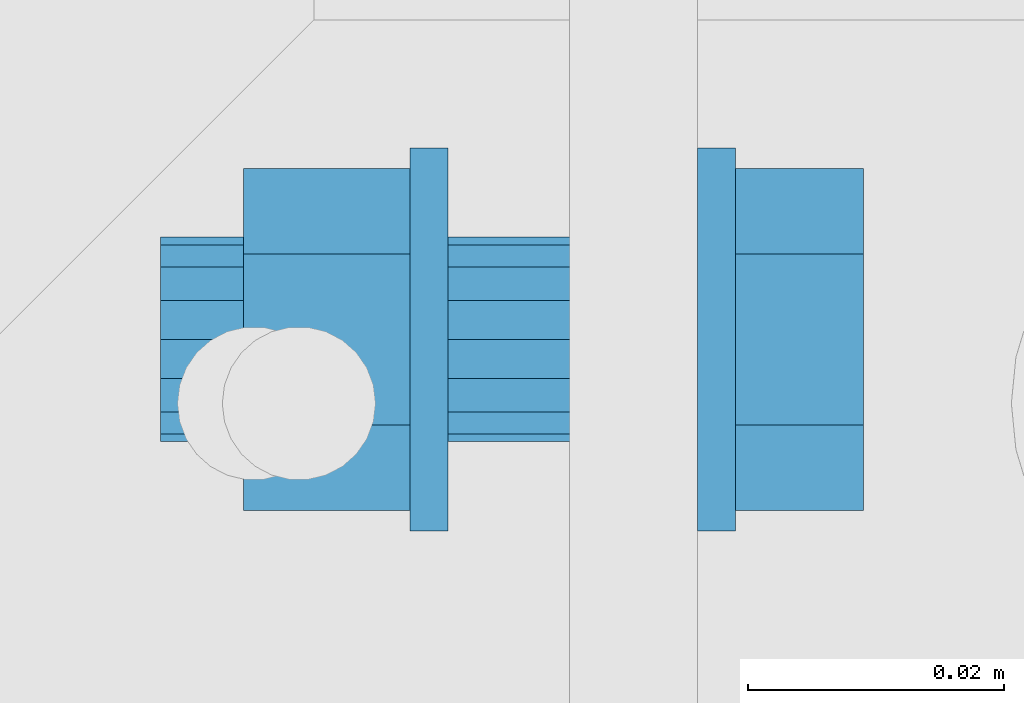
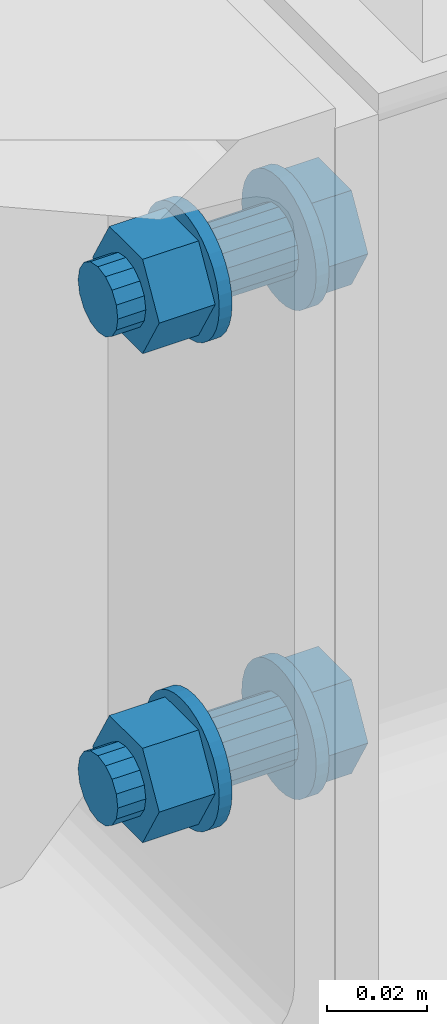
# One storey, part 242 of 825: 1 mechanical fastener.
"""IFC2X3 building model written with IfcOpenShell, lengths in millimetres."""

from ifc_helpers import new_model, entity, si_unit, converted_unit, origin_with_axes, place, context, project, spatial, faceted_brep, element, save


model = new_model("IFC2X3")

# Units and contexts
model_context = context("Model", 3, precision=1e-09, world=origin_with_axes())
ifc_project = project(units=[si_unit("LENGTHUNIT", "METRE", prefix="MILLI"), si_unit("AREAUNIT", "SQUARE_METRE"), si_unit("VOLUMEUNIT", "CUBIC_METRE"), converted_unit("PLANEANGLEUNIT", "DEGREE", entity("IfcPlaneAngleMeasure", 0.01745329), si_unit("PLANEANGLEUNIT", "RADIAN"), dimensions=[0, 0, 0, 0, 0, 0, 0])], contexts=[model_context])

# Site, building, storey
site_placement = place(None, origin_with_axes())
site = spatial("IfcSite", under=ifc_project, at=site_placement, Name="Cnopf'sche Kinderklinik", CompositionType="ELEMENT")
building_placement = place(site_placement, origin_with_axes())
building = spatial("IfcBuilding", under=site, at=building_placement, Name="Struktur 1", CompositionType="ELEMENT")
storey_placement = place(building_placement, origin_with_axes())
storey = spatial("IfcBuildingStorey", under=building, at=storey_placement, Name="Default Storey", CompositionType="ELEMENT", Elevation=0.0)

# Mechanical fastener
mechanical_fastener_placement = place(None, origin_with_axes())
element("IfcMechanicalFastener", 1, at=mechanical_fastener_placement, inside=storey, ObjectType="Bolt#2", NominalDiameter=16.0, NominalLength=45.0, context=model_context, shape_type="Brep", body=[
    faceted_brep([(3334.713402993, 4531.736971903, 15139.0), (3331.713402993, 4531.736971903, 15139.0), (3331.713402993, 4534.663326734, 15139.288220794), (3334.713402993, 4534.663326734, 15139.288220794), (3331.713402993, 4537.477223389, 15140.141807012), (3334.713402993, 4537.477223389, 15140.141807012), (3331.713402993, 4540.070525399, 15141.527955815), (3334.713402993, 4540.070525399, 15141.527955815), (3331.713402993, 4542.343573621, 15143.393398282), (3334.713402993, 4542.343573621, 15143.393398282), (3331.713402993, 4544.209016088, 15145.666446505), (3334.713402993, 4544.209016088, 15145.666446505), (3331.713402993, 4545.595164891, 15148.259748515), (3334.713402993, 4545.595164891, 15148.259748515), (3331.713402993, 4546.448751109, 15151.07364517), (3334.713402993, 4546.448751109, 15151.07364517), (3331.713402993, 4546.736971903, 15154.0), (3334.713402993, 4546.736971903, 15154.0), (3331.713402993, 4546.448751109, 15156.92635483), (3334.713402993, 4546.448751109, 15156.92635483), (3331.713402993, 4545.595164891, 15159.740251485), (3334.713402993, 4545.595164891, 15159.740251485), (3331.713402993, 4544.209016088, 15162.333553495), (3334.713402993, 4544.209016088, 15162.333553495), (3331.713402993, 4542.343573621, 15164.606601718), (3334.713402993, 4542.343573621, 15164.606601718), (3331.713402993, 4540.070525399, 15166.472044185), (3334.713402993, 4540.070525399, 15166.472044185), (3331.713402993, 4537.477223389, 15167.858192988), (3334.713402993, 4537.477223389, 15167.858192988), (3331.713402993, 4534.663326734, 15168.711779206), (3334.713402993, 4534.663326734, 15168.711779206), (3331.713402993, 4531.736971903, 15169.0), (3334.713402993, 4531.736971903, 15169.0), (3331.713402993, 4528.810617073, 15168.711779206), (3334.713402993, 4528.810617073, 15168.711779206), (3331.713402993, 4525.996720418, 15167.858192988), (3334.713402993, 4525.996720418, 15167.858192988), (3331.713402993, 4523.403418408, 15166.472044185), (3334.713402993, 4523.403418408, 15166.472044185), (3331.713402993, 4521.130370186, 15164.606601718), (3334.713402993, 4521.130370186, 15164.606601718), (3331.713402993, 4519.264927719, 15162.333553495), (3334.713402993, 4519.264927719, 15162.333553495), (3331.713402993, 4517.878778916, 15159.740251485), (3334.713402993, 4517.878778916, 15159.740251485), (3331.713402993, 4517.025192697, 15156.92635483), (3334.713402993, 4517.025192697, 15156.92635483), (3331.713402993, 4516.736971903, 15154.0), (3334.713402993, 4516.736971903, 15154.0), (3331.713402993, 4517.025192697, 15151.07364517), (3334.713402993, 4517.025192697, 15151.07364517), (3331.713402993, 4517.878778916, 15148.259748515), (3334.713402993, 4517.878778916, 15148.259748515), (3331.713402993, 4519.264927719, 15145.666446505), (3334.713402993, 4519.264927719, 15145.666446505), (3331.713402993, 4521.130370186, 15143.393398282), (3334.713402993, 4521.130370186, 15143.393398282), (3331.713402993, 4523.403418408, 15141.527955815), (3334.713402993, 4523.403418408, 15141.527955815), (3331.713402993, 4525.996720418, 15140.141807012), (3334.713402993, 4525.996720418, 15140.141807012), (3331.713402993, 4528.810617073, 15139.288220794), (3334.713402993, 4528.810617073, 15139.288220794)], [[[0, 1, 2, 3]], [[3, 2, 4, 5]], [[5, 4, 6, 7]], [[7, 6, 8, 9]], [[9, 8, 10, 11]], [[11, 10, 12, 13]], [[13, 12, 14, 15]], [[15, 14, 16, 17]], [[17, 16, 18, 19]], [[19, 18, 20, 21]], [[21, 20, 22, 23]], [[23, 22, 24, 25]], [[25, 24, 26, 27]], [[27, 26, 28, 29]], [[29, 28, 30, 31]], [[31, 30, 32, 33]], [[33, 32, 34, 35]], [[35, 34, 36, 37]], [[37, 36, 38, 39]], [[39, 38, 40, 41]], [[41, 40, 42, 43]], [[43, 42, 44, 45]], [[45, 44, 46, 47]], [[47, 46, 48, 49]], [[49, 48, 50, 51]], [[51, 50, 52, 53]], [[53, 52, 54, 55]], [[55, 54, 56, 57]], [[57, 56, 58, 59]], [[59, 58, 60, 61]], [[61, 60, 62, 63]], [[63, 62, 1, 0]], [[0, 3, 5, 7, 9, 11, 13, 15, 17, 19, 21, 23, 25, 27, 29, 31, 33, 35, 37, 39, 41, 43, 45, 47, 49, 51, 53, 55, 57, 59, 61, 63]], [[1, 62, 60, 58, 56, 54, 52, 50, 48, 46, 44, 42, 40, 38, 36, 34, 32, 30, 28, 26, 24, 22, 20, 18, 16, 14, 12, 10, 8, 6, 4, 2]]]),
    faceted_brep([(3334.713402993, 4531.736971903, 15019.0), (3331.713402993, 4531.736971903, 15019.0), (3331.713402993, 4534.663326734, 15019.288220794), (3334.713402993, 4534.663326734, 15019.288220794), (3331.713402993, 4537.477223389, 15020.141807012), (3334.713402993, 4537.477223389, 15020.141807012), (3331.713402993, 4540.070525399, 15021.527955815), (3334.713402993, 4540.070525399, 15021.527955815), (3331.713402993, 4542.343573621, 15023.393398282), (3334.713402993, 4542.343573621, 15023.393398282), (3331.713402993, 4544.209016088, 15025.666446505), (3334.713402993, 4544.209016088, 15025.666446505), (3331.713402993, 4545.595164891, 15028.259748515), (3334.713402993, 4545.595164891, 15028.259748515), (3331.713402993, 4546.448751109, 15031.07364517), (3334.713402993, 4546.448751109, 15031.07364517), (3331.713402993, 4546.736971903, 15034.0), (3334.713402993, 4546.736971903, 15034.0), (3331.713402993, 4546.448751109, 15036.92635483), (3334.713402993, 4546.448751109, 15036.92635483), (3331.713402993, 4545.595164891, 15039.740251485), (3334.713402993, 4545.595164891, 15039.740251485), (3331.713402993, 4544.209016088, 15042.333553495), (3334.713402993, 4544.209016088, 15042.333553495), (3331.713402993, 4542.343573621, 15044.606601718), (3334.713402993, 4542.343573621, 15044.606601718), (3331.713402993, 4540.070525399, 15046.472044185), (3334.713402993, 4540.070525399, 15046.472044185), (3331.713402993, 4537.477223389, 15047.858192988), (3334.713402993, 4537.477223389, 15047.858192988), (3331.713402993, 4534.663326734, 15048.711779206), (3334.713402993, 4534.663326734, 15048.711779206), (3331.713402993, 4531.736971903, 15049.0), (3334.713402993, 4531.736971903, 15049.0), (3331.713402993, 4528.810617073, 15048.711779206), (3334.713402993, 4528.810617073, 15048.711779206), (3331.713402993, 4525.996720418, 15047.858192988), (3334.713402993, 4525.996720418, 15047.858192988), (3331.713402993, 4523.403418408, 15046.472044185), (3334.713402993, 4523.403418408, 15046.472044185), (3331.713402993, 4521.130370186, 15044.606601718), (3334.713402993, 4521.130370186, 15044.606601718), (3331.713402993, 4519.264927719, 15042.333553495), (3334.713402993, 4519.264927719, 15042.333553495), (3331.713402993, 4517.878778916, 15039.740251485), (3334.713402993, 4517.878778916, 15039.740251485), (3331.713402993, 4517.025192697, 15036.92635483), (3334.713402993, 4517.025192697, 15036.92635483), (3331.713402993, 4516.736971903, 15034.0), (3334.713402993, 4516.736971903, 15034.0), (3331.713402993, 4517.025192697, 15031.07364517), (3334.713402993, 4517.025192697, 15031.07364517), (3331.713402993, 4517.878778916, 15028.259748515), (3334.713402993, 4517.878778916, 15028.259748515), (3331.713402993, 4519.264927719, 15025.666446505), (3334.713402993, 4519.264927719, 15025.666446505), (3331.713402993, 4521.130370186, 15023.393398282), (3334.713402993, 4521.130370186, 15023.393398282), (3331.713402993, 4523.403418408, 15021.527955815), (3334.713402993, 4523.403418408, 15021.527955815), (3331.713402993, 4525.996720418, 15020.141807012), (3334.713402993, 4525.996720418, 15020.141807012), (3331.713402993, 4528.810617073, 15019.288220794), (3334.713402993, 4528.810617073, 15019.288220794)], [[[0, 1, 2, 3]], [[3, 2, 4, 5]], [[5, 4, 6, 7]], [[7, 6, 8, 9]], [[9, 8, 10, 11]], [[11, 10, 12, 13]], [[13, 12, 14, 15]], [[15, 14, 16, 17]], [[17, 16, 18, 19]], [[19, 18, 20, 21]], [[21, 20, 22, 23]], [[23, 22, 24, 25]], [[25, 24, 26, 27]], [[27, 26, 28, 29]], [[29, 28, 30, 31]], [[31, 30, 32, 33]], [[33, 32, 34, 35]], [[35, 34, 36, 37]], [[37, 36, 38, 39]], [[39, 38, 40, 41]], [[41, 40, 42, 43]], [[43, 42, 44, 45]], [[45, 44, 46, 47]], [[47, 46, 48, 49]], [[49, 48, 50, 51]], [[51, 50, 52, 53]], [[53, 52, 54, 55]], [[55, 54, 56, 57]], [[57, 56, 58, 59]], [[59, 58, 60, 61]], [[61, 60, 62, 63]], [[63, 62, 1, 0]], [[0, 3, 5, 7, 9, 11, 13, 15, 17, 19, 21, 23, 25, 27, 29, 31, 33, 35, 37, 39, 41, 43, 45, 47, 49, 51, 53, 55, 57, 59, 61, 63]], [[1, 62, 60, 58, 56, 54, 52, 50, 48, 46, 44, 42, 40, 38, 36, 34, 32, 30, 28, 26, 24, 22, 20, 18, 16, 14, 12, 10, 8, 6, 4, 2]]]),
    faceted_brep([(3334.713402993, 4538.424471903, 15165.583089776), (3344.713402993, 4538.424471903, 15165.583089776), (3344.713402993, 4545.111971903, 15154.0), (3334.713402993, 4545.111971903, 15154.0), (3344.713402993, 4538.424471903, 15142.416910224), (3334.713402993, 4538.424471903, 15142.416910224), (3344.713402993, 4525.049471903, 15142.416910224), (3334.713402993, 4525.049471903, 15142.416910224), (3344.713402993, 4518.361971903, 15154.0), (3334.713402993, 4518.361971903, 15154.0), (3344.713402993, 4525.049471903, 15165.583089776), (3334.713402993, 4525.049471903, 15165.583089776)], [[[0, 1, 2, 3]], [[3, 2, 4, 5]], [[5, 4, 6, 7]], [[7, 6, 8, 9]], [[9, 8, 10, 11]], [[11, 10, 1, 0]], [[4, 2, 1, 10, 8, 6]], [[0, 3, 5, 7, 9, 11]]]),
    faceted_brep([(3334.713402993, 4538.424471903, 15045.583089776), (3344.713402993, 4538.424471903, 15045.583089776), (3344.713402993, 4545.111971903, 15034.0), (3334.713402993, 4545.111971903, 15034.0), (3344.713402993, 4538.424471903, 15022.416910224), (3334.713402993, 4538.424471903, 15022.416910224), (3344.713402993, 4525.049471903, 15022.416910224), (3334.713402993, 4525.049471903, 15022.416910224), (3344.713402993, 4518.361971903, 15034.0), (3334.713402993, 4518.361971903, 15034.0), (3344.713402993, 4525.049471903, 15045.583089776), (3334.713402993, 4525.049471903, 15045.583089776)], [[[0, 1, 2, 3]], [[3, 2, 4, 5]], [[5, 4, 6, 7]], [[7, 6, 8, 9]], [[9, 8, 10, 11]], [[11, 10, 1, 0]], [[4, 2, 1, 10, 8, 6]], [[0, 3, 5, 7, 9, 11]]]),
    faceted_brep([(3331.713402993, 4531.736971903, 15146.0), (3312.213402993, 4531.736971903, 15146.0), (3312.213402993, 4534.798439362, 15146.60896374), (3331.713402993, 4534.798439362, 15146.60896374), (3312.213402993, 4537.393826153, 15148.343145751), (3331.713402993, 4537.393826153, 15148.343145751), (3312.213402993, 4539.128008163, 15150.938532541), (3331.713402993, 4539.128008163, 15150.938532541), (3312.213402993, 4539.736971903, 15154.0), (3331.713402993, 4539.736971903, 15154.0), (3312.213402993, 4539.128008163, 15157.061467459), (3331.713402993, 4539.128008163, 15157.061467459), (3312.213402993, 4537.393826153, 15159.656854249), (3331.713402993, 4537.393826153, 15159.656854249), (3312.213402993, 4534.798439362, 15161.39103626), (3331.713402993, 4534.798439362, 15161.39103626), (3312.213402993, 4531.736971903, 15162.0), (3331.713402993, 4531.736971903, 15162.0), (3312.213402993, 4528.675504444, 15161.39103626), (3331.713402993, 4528.675504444, 15161.39103626), (3312.213402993, 4526.080117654, 15159.656854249), (3331.713402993, 4526.080117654, 15159.656854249), (3312.213402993, 4524.345935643, 15157.061467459), (3331.713402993, 4524.345935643, 15157.061467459), (3312.213402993, 4523.736971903, 15154.0), (3331.713402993, 4523.736971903, 15154.0), (3312.213402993, 4524.345935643, 15150.938532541), (3331.713402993, 4524.345935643, 15150.938532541), (3312.213402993, 4526.080117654, 15148.343145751), (3331.713402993, 4526.080117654, 15148.343145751), (3312.213402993, 4528.675504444, 15146.60896374), (3331.713402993, 4528.675504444, 15146.60896374)], [[[0, 1, 2, 3]], [[3, 2, 4, 5]], [[5, 4, 6, 7]], [[7, 6, 8, 9]], [[9, 8, 10, 11]], [[11, 10, 12, 13]], [[13, 12, 14, 15]], [[15, 14, 16, 17]], [[17, 16, 18, 19]], [[19, 18, 20, 21]], [[21, 20, 22, 23]], [[23, 22, 24, 25]], [[25, 24, 26, 27]], [[27, 26, 28, 29]], [[29, 28, 30, 31]], [[31, 30, 1, 0]], [[0, 3, 5, 7, 9, 11, 13, 15, 17, 19, 21, 23, 25, 27, 29, 31]], [[1, 30, 28, 26, 24, 22, 20, 18, 16, 14, 12, 10, 8, 6, 4, 2]]]),
    faceted_brep([(3331.713402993, 4531.736971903, 15026.0), (3312.213402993, 4531.736971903, 15026.0), (3312.213402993, 4534.798439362, 15026.60896374), (3331.713402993, 4534.798439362, 15026.60896374), (3312.213402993, 4537.393826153, 15028.343145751), (3331.713402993, 4537.393826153, 15028.343145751), (3312.213402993, 4539.128008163, 15030.938532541), (3331.713402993, 4539.128008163, 15030.938532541), (3312.213402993, 4539.736971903, 15034.0), (3331.713402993, 4539.736971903, 15034.0), (3312.213402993, 4539.128008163, 15037.061467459), (3331.713402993, 4539.128008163, 15037.061467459), (3312.213402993, 4537.393826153, 15039.656854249), (3331.713402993, 4537.393826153, 15039.656854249), (3312.213402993, 4534.798439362, 15041.39103626), (3331.713402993, 4534.798439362, 15041.39103626), (3312.213402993, 4531.736971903, 15042.0), (3331.713402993, 4531.736971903, 15042.0), (3312.213402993, 4528.675504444, 15041.39103626), (3331.713402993, 4528.675504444, 15041.39103626), (3312.213402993, 4526.080117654, 15039.656854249), (3331.713402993, 4526.080117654, 15039.656854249), (3312.213402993, 4524.345935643, 15037.061467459), (3331.713402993, 4524.345935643, 15037.061467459), (3312.213402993, 4523.736971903, 15034.0), (3331.713402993, 4523.736971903, 15034.0), (3312.213402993, 4524.345935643, 15030.938532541), (3331.713402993, 4524.345935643, 15030.938532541), (3312.213402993, 4526.080117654, 15028.343145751), (3331.713402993, 4526.080117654, 15028.343145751), (3312.213402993, 4528.675504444, 15026.60896374), (3331.713402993, 4528.675504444, 15026.60896374)], [[[0, 1, 2, 3]], [[3, 2, 4, 5]], [[5, 4, 6, 7]], [[7, 6, 8, 9]], [[9, 8, 10, 11]], [[11, 10, 12, 13]], [[13, 12, 14, 15]], [[15, 14, 16, 17]], [[17, 16, 18, 19]], [[19, 18, 20, 21]], [[21, 20, 22, 23]], [[23, 22, 24, 25]], [[25, 24, 26, 27]], [[27, 26, 28, 29]], [[29, 28, 30, 31]], [[31, 30, 1, 0]], [[0, 3, 5, 7, 9, 11, 13, 15, 17, 19, 21, 23, 25, 27, 29, 31]], [[1, 30, 28, 26, 24, 22, 20, 18, 16, 14, 12, 10, 8, 6, 4, 2]]]),
    faceted_brep([(3312.213402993, 4531.736971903, 15139.0), (3309.213402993, 4531.736971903, 15139.0), (3309.213402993, 4534.663326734, 15139.288220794), (3312.213402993, 4534.663326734, 15139.288220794), (3309.213402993, 4537.477223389, 15140.141807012), (3312.213402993, 4537.477223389, 15140.141807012), (3309.213402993, 4540.070525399, 15141.527955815), (3312.213402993, 4540.070525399, 15141.527955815), (3309.213402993, 4542.343573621, 15143.393398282), (3312.213402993, 4542.343573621, 15143.393398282), (3309.213402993, 4544.209016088, 15145.666446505), (3312.213402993, 4544.209016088, 15145.666446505), (3309.213402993, 4545.595164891, 15148.259748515), (3312.213402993, 4545.595164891, 15148.259748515), (3309.213402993, 4546.448751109, 15151.07364517), (3312.213402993, 4546.448751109, 15151.07364517), (3309.213402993, 4546.736971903, 15154.0), (3312.213402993, 4546.736971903, 15154.0), (3309.213402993, 4546.448751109, 15156.92635483), (3312.213402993, 4546.448751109, 15156.92635483), (3309.213402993, 4545.595164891, 15159.740251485), (3312.213402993, 4545.595164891, 15159.740251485), (3309.213402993, 4544.209016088, 15162.333553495), (3312.213402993, 4544.209016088, 15162.333553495), (3309.213402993, 4542.343573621, 15164.606601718), (3312.213402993, 4542.343573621, 15164.606601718), (3309.213402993, 4540.070525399, 15166.472044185), (3312.213402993, 4540.070525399, 15166.472044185), (3309.213402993, 4537.477223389, 15167.858192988), (3312.213402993, 4537.477223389, 15167.858192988), (3309.213402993, 4534.663326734, 15168.711779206), (3312.213402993, 4534.663326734, 15168.711779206), (3309.213402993, 4531.736971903, 15169.0), (3312.213402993, 4531.736971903, 15169.0), (3309.213402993, 4528.810617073, 15168.711779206), (3312.213402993, 4528.810617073, 15168.711779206), (3309.213402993, 4525.996720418, 15167.858192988), (3312.213402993, 4525.996720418, 15167.858192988), (3309.213402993, 4523.403418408, 15166.472044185), (3312.213402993, 4523.403418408, 15166.472044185), (3309.213402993, 4521.130370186, 15164.606601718), (3312.213402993, 4521.130370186, 15164.606601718), (3309.213402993, 4519.264927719, 15162.333553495), (3312.213402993, 4519.264927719, 15162.333553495), (3309.213402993, 4517.878778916, 15159.740251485), (3312.213402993, 4517.878778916, 15159.740251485), (3309.213402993, 4517.025192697, 15156.92635483), (3312.213402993, 4517.025192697, 15156.92635483), (3309.213402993, 4516.736971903, 15154.0), (3312.213402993, 4516.736971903, 15154.0), (3309.213402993, 4517.025192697, 15151.07364517), (3312.213402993, 4517.025192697, 15151.07364517), (3309.213402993, 4517.878778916, 15148.259748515), (3312.213402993, 4517.878778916, 15148.259748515), (3309.213402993, 4519.264927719, 15145.666446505), (3312.213402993, 4519.264927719, 15145.666446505), (3309.213402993, 4521.130370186, 15143.393398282), (3312.213402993, 4521.130370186, 15143.393398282), (3309.213402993, 4523.403418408, 15141.527955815), (3312.213402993, 4523.403418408, 15141.527955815), (3309.213402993, 4525.996720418, 15140.141807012), (3312.213402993, 4525.996720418, 15140.141807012), (3309.213402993, 4528.810617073, 15139.288220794), (3312.213402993, 4528.810617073, 15139.288220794)], [[[0, 1, 2, 3]], [[3, 2, 4, 5]], [[5, 4, 6, 7]], [[7, 6, 8, 9]], [[9, 8, 10, 11]], [[11, 10, 12, 13]], [[13, 12, 14, 15]], [[15, 14, 16, 17]], [[17, 16, 18, 19]], [[19, 18, 20, 21]], [[21, 20, 22, 23]], [[23, 22, 24, 25]], [[25, 24, 26, 27]], [[27, 26, 28, 29]], [[29, 28, 30, 31]], [[31, 30, 32, 33]], [[33, 32, 34, 35]], [[35, 34, 36, 37]], [[37, 36, 38, 39]], [[39, 38, 40, 41]], [[41, 40, 42, 43]], [[43, 42, 44, 45]], [[45, 44, 46, 47]], [[47, 46, 48, 49]], [[49, 48, 50, 51]], [[51, 50, 52, 53]], [[53, 52, 54, 55]], [[55, 54, 56, 57]], [[57, 56, 58, 59]], [[59, 58, 60, 61]], [[61, 60, 62, 63]], [[63, 62, 1, 0]], [[0, 3, 5, 7, 9, 11, 13, 15, 17, 19, 21, 23, 25, 27, 29, 31, 33, 35, 37, 39, 41, 43, 45, 47, 49, 51, 53, 55, 57, 59, 61, 63]], [[1, 62, 60, 58, 56, 54, 52, 50, 48, 46, 44, 42, 40, 38, 36, 34, 32, 30, 28, 26, 24, 22, 20, 18, 16, 14, 12, 10, 8, 6, 4, 2]]]),
    faceted_brep([(3312.213402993, 4531.736971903, 15019.0), (3309.213402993, 4531.736971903, 15019.0), (3309.213402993, 4534.663326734, 15019.288220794), (3312.213402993, 4534.663326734, 15019.288220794), (3309.213402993, 4537.477223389, 15020.141807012), (3312.213402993, 4537.477223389, 15020.141807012), (3309.213402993, 4540.070525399, 15021.527955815), (3312.213402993, 4540.070525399, 15021.527955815), (3309.213402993, 4542.343573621, 15023.393398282), (3312.213402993, 4542.343573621, 15023.393398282), (3309.213402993, 4544.209016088, 15025.666446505), (3312.213402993, 4544.209016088, 15025.666446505), (3309.213402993, 4545.595164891, 15028.259748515), (3312.213402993, 4545.595164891, 15028.259748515), (3309.213402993, 4546.448751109, 15031.07364517), (3312.213402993, 4546.448751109, 15031.07364517), (3309.213402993, 4546.736971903, 15034.0), (3312.213402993, 4546.736971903, 15034.0), (3309.213402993, 4546.448751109, 15036.92635483), (3312.213402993, 4546.448751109, 15036.92635483), (3309.213402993, 4545.595164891, 15039.740251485), (3312.213402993, 4545.595164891, 15039.740251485), (3309.213402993, 4544.209016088, 15042.333553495), (3312.213402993, 4544.209016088, 15042.333553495), (3309.213402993, 4542.343573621, 15044.606601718), (3312.213402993, 4542.343573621, 15044.606601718), (3309.213402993, 4540.070525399, 15046.472044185), (3312.213402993, 4540.070525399, 15046.472044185), (3309.213402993, 4537.477223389, 15047.858192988), (3312.213402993, 4537.477223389, 15047.858192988), (3309.213402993, 4534.663326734, 15048.711779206), (3312.213402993, 4534.663326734, 15048.711779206), (3309.213402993, 4531.736971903, 15049.0), (3312.213402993, 4531.736971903, 15049.0), (3309.213402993, 4528.810617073, 15048.711779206), (3312.213402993, 4528.810617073, 15048.711779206), (3309.213402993, 4525.996720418, 15047.858192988), (3312.213402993, 4525.996720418, 15047.858192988), (3309.213402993, 4523.403418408, 15046.472044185), (3312.213402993, 4523.403418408, 15046.472044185), (3309.213402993, 4521.130370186, 15044.606601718), (3312.213402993, 4521.130370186, 15044.606601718), (3309.213402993, 4519.264927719, 15042.333553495), (3312.213402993, 4519.264927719, 15042.333553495), (3309.213402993, 4517.878778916, 15039.740251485), (3312.213402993, 4517.878778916, 15039.740251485), (3309.213402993, 4517.025192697, 15036.92635483), (3312.213402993, 4517.025192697, 15036.92635483), (3309.213402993, 4516.736971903, 15034.0), (3312.213402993, 4516.736971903, 15034.0), (3309.213402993, 4517.025192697, 15031.07364517), (3312.213402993, 4517.025192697, 15031.07364517), (3309.213402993, 4517.878778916, 15028.259748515), (3312.213402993, 4517.878778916, 15028.259748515), (3309.213402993, 4519.264927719, 15025.666446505), (3312.213402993, 4519.264927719, 15025.666446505), (3309.213402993, 4521.130370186, 15023.393398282), (3312.213402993, 4521.130370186, 15023.393398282), (3309.213402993, 4523.403418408, 15021.527955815), (3312.213402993, 4523.403418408, 15021.527955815), (3309.213402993, 4525.996720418, 15020.141807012), (3312.213402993, 4525.996720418, 15020.141807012), (3309.213402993, 4528.810617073, 15019.288220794), (3312.213402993, 4528.810617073, 15019.288220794)], [[[0, 1, 2, 3]], [[3, 2, 4, 5]], [[5, 4, 6, 7]], [[7, 6, 8, 9]], [[9, 8, 10, 11]], [[11, 10, 12, 13]], [[13, 12, 14, 15]], [[15, 14, 16, 17]], [[17, 16, 18, 19]], [[19, 18, 20, 21]], [[21, 20, 22, 23]], [[23, 22, 24, 25]], [[25, 24, 26, 27]], [[27, 26, 28, 29]], [[29, 28, 30, 31]], [[31, 30, 32, 33]], [[33, 32, 34, 35]], [[35, 34, 36, 37]], [[37, 36, 38, 39]], [[39, 38, 40, 41]], [[41, 40, 42, 43]], [[43, 42, 44, 45]], [[45, 44, 46, 47]], [[47, 46, 48, 49]], [[49, 48, 50, 51]], [[51, 50, 52, 53]], [[53, 52, 54, 55]], [[55, 54, 56, 57]], [[57, 56, 58, 59]], [[59, 58, 60, 61]], [[61, 60, 62, 63]], [[63, 62, 1, 0]], [[0, 3, 5, 7, 9, 11, 13, 15, 17, 19, 21, 23, 25, 27, 29, 31, 33, 35, 37, 39, 41, 43, 45, 47, 49, 51, 53, 55, 57, 59, 61, 63]], [[1, 62, 60, 58, 56, 54, 52, 50, 48, 46, 44, 42, 40, 38, 36, 34, 32, 30, 28, 26, 24, 22, 20, 18, 16, 14, 12, 10, 8, 6, 4, 2]]]),
    faceted_brep([(3296.213402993, 4538.424471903, 15165.583089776), (3309.213402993, 4538.424471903, 15165.583089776), (3309.213402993, 4545.111971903, 15154.0), (3296.213402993, 4545.111971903, 15154.0), (3309.213402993, 4538.424471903, 15142.416910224), (3296.213402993, 4538.424471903, 15142.416910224), (3309.213402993, 4525.049471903, 15142.416910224), (3296.213402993, 4525.049471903, 15142.416910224), (3309.213402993, 4518.361971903, 15154.0), (3296.213402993, 4518.361971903, 15154.0), (3309.213402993, 4525.049471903, 15165.583089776), (3296.213402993, 4525.049471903, 15165.583089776)], [[[0, 1, 2, 3]], [[3, 2, 4, 5]], [[5, 4, 6, 7]], [[7, 6, 8, 9]], [[9, 8, 10, 11]], [[11, 10, 1, 0]], [[4, 2, 1, 10, 8, 6]], [[0, 3, 5, 7, 9, 11]]]),
    faceted_brep([(3296.213402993, 4538.424471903, 15045.583089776), (3309.213402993, 4538.424471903, 15045.583089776), (3309.213402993, 4545.111971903, 15034.0), (3296.213402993, 4545.111971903, 15034.0), (3309.213402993, 4538.424471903, 15022.416910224), (3296.213402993, 4538.424471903, 15022.416910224), (3309.213402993, 4525.049471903, 15022.416910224), (3296.213402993, 4525.049471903, 15022.416910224), (3309.213402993, 4518.361971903, 15034.0), (3296.213402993, 4518.361971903, 15034.0), (3309.213402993, 4525.049471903, 15045.583089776), (3296.213402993, 4525.049471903, 15045.583089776)], [[[0, 1, 2, 3]], [[3, 2, 4, 5]], [[5, 4, 6, 7]], [[7, 6, 8, 9]], [[9, 8, 10, 11]], [[11, 10, 1, 0]], [[4, 2, 1, 10, 8, 6]], [[0, 3, 5, 7, 9, 11]]]),
    faceted_brep([(3296.213402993, 4531.736971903, 15146.0), (3289.713402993, 4531.736971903, 15146.0), (3289.713402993, 4534.798439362, 15146.60896374), (3296.213402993, 4534.798439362, 15146.60896374), (3289.713402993, 4537.393826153, 15148.343145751), (3296.213402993, 4537.393826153, 15148.343145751), (3289.713402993, 4539.128008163, 15150.938532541), (3296.213402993, 4539.128008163, 15150.938532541), (3289.713402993, 4539.736971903, 15154.0), (3296.213402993, 4539.736971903, 15154.0), (3289.713402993, 4539.128008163, 15157.061467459), (3296.213402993, 4539.128008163, 15157.061467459), (3289.713402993, 4537.393826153, 15159.656854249), (3296.213402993, 4537.393826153, 15159.656854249), (3289.713402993, 4534.798439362, 15161.39103626), (3296.213402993, 4534.798439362, 15161.39103626), (3289.713402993, 4531.736971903, 15162.0), (3296.213402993, 4531.736971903, 15162.0), (3289.713402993, 4528.675504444, 15161.39103626), (3296.213402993, 4528.675504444, 15161.39103626), (3289.713402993, 4526.080117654, 15159.656854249), (3296.213402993, 4526.080117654, 15159.656854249), (3289.713402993, 4524.345935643, 15157.061467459), (3296.213402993, 4524.345935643, 15157.061467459), (3289.713402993, 4523.736971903, 15154.0), (3296.213402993, 4523.736971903, 15154.0), (3289.713402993, 4524.345935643, 15150.938532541), (3296.213402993, 4524.345935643, 15150.938532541), (3289.713402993, 4526.080117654, 15148.343145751), (3296.213402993, 4526.080117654, 15148.343145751), (3289.713402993, 4528.675504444, 15146.60896374), (3296.213402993, 4528.675504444, 15146.60896374)], [[[0, 1, 2, 3]], [[3, 2, 4, 5]], [[5, 4, 6, 7]], [[7, 6, 8, 9]], [[9, 8, 10, 11]], [[11, 10, 12, 13]], [[13, 12, 14, 15]], [[15, 14, 16, 17]], [[17, 16, 18, 19]], [[19, 18, 20, 21]], [[21, 20, 22, 23]], [[23, 22, 24, 25]], [[25, 24, 26, 27]], [[27, 26, 28, 29]], [[29, 28, 30, 31]], [[31, 30, 1, 0]], [[0, 3, 5, 7, 9, 11, 13, 15, 17, 19, 21, 23, 25, 27, 29, 31]], [[1, 30, 28, 26, 24, 22, 20, 18, 16, 14, 12, 10, 8, 6, 4, 2]]]),
    faceted_brep([(3296.213402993, 4531.736971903, 15026.0), (3289.713402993, 4531.736971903, 15026.0), (3289.713402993, 4534.798439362, 15026.60896374), (3296.213402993, 4534.798439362, 15026.60896374), (3289.713402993, 4537.393826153, 15028.343145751), (3296.213402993, 4537.393826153, 15028.343145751), (3289.713402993, 4539.128008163, 15030.938532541), (3296.213402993, 4539.128008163, 15030.938532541), (3289.713402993, 4539.736971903, 15034.0), (3296.213402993, 4539.736971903, 15034.0), (3289.713402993, 4539.128008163, 15037.061467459), (3296.213402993, 4539.128008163, 15037.061467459), (3289.713402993, 4537.393826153, 15039.656854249), (3296.213402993, 4537.393826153, 15039.656854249), (3289.713402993, 4534.798439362, 15041.39103626), (3296.213402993, 4534.798439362, 15041.39103626), (3289.713402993, 4531.736971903, 15042.0), (3296.213402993, 4531.736971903, 15042.0), (3289.713402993, 4528.675504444, 15041.39103626), (3296.213402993, 4528.675504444, 15041.39103626), (3289.713402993, 4526.080117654, 15039.656854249), (3296.213402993, 4526.080117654, 15039.656854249), (3289.713402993, 4524.345935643, 15037.061467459), (3296.213402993, 4524.345935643, 15037.061467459), (3289.713402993, 4523.736971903, 15034.0), (3296.213402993, 4523.736971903, 15034.0), (3289.713402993, 4524.345935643, 15030.938532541), (3296.213402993, 4524.345935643, 15030.938532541), (3289.713402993, 4526.080117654, 15028.343145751), (3296.213402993, 4526.080117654, 15028.343145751), (3289.713402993, 4528.675504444, 15026.60896374), (3296.213402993, 4528.675504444, 15026.60896374)], [[[0, 1, 2, 3]], [[3, 2, 4, 5]], [[5, 4, 6, 7]], [[7, 6, 8, 9]], [[9, 8, 10, 11]], [[11, 10, 12, 13]], [[13, 12, 14, 15]], [[15, 14, 16, 17]], [[17, 16, 18, 19]], [[19, 18, 20, 21]], [[21, 20, 22, 23]], [[23, 22, 24, 25]], [[25, 24, 26, 27]], [[27, 26, 28, 29]], [[29, 28, 30, 31]], [[31, 30, 1, 0]], [[0, 3, 5, 7, 9, 11, 13, 15, 17, 19, 21, 23, 25, 27, 29, 31]], [[1, 30, 28, 26, 24, 22, 20, 18, 16, 14, 12, 10, 8, 6, 4, 2]]]),
])

save(model, "model.ifc")
